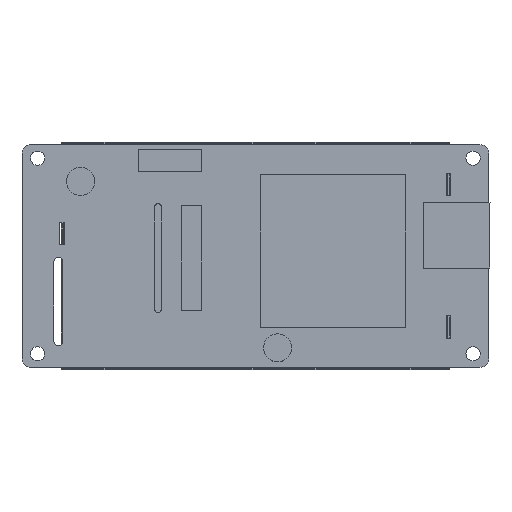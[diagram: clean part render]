
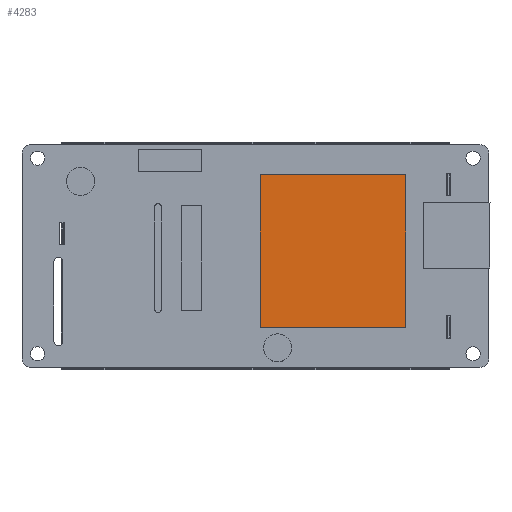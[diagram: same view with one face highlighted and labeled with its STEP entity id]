
A CAD part, top view. The second image highlights one B-rep face of the part: STEP entity #4283.
In plain terms, the highlighted planar face has unit normal (0, 0, 1).
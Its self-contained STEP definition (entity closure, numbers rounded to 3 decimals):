
#929=DIRECTION('',(0.,-1.,0.));
#930=VECTOR('',#929,34.417);
#931=CARTESIAN_POINT('',(-1.868,18.293,10.5));
#932=LINE('',#931,#930);
#933=DIRECTION('',(-1.,0.,0.));
#934=VECTOR('',#933,32.766);
#935=CARTESIAN_POINT('',(30.898,18.293,10.5));
#936=LINE('',#935,#934);
#937=DIRECTION('',(0.,1.,0.));
#938=VECTOR('',#937,34.417);
#939=CARTESIAN_POINT('',(30.898,-16.124,10.5));
#940=LINE('',#939,#938);
#941=DIRECTION('',(1.,0.,0.));
#942=VECTOR('',#941,32.766);
#943=CARTESIAN_POINT('',(-1.868,-16.124,10.5));
#944=LINE('',#943,#942);
#2353=CARTESIAN_POINT('',(-1.868,18.293,10.5));
#2354=CARTESIAN_POINT('',(-1.868,-16.124,10.5));
#2355=VERTEX_POINT('',#2353);
#2356=VERTEX_POINT('',#2354);
#2357=CARTESIAN_POINT('',(30.898,-16.124,10.5));
#2358=VERTEX_POINT('',#2357);
#2359=CARTESIAN_POINT('',(30.898,18.293,10.5));
#2360=VERTEX_POINT('',#2359);
#4272=CARTESIAN_POINT('',(-53.45,-25.08,10.5));
#4273=DIRECTION('',(0.,0.,1.));
#4274=DIRECTION('',(1.,0.,0.));
#4275=AXIS2_PLACEMENT_3D('',#4272,#4273,#4274);
#4276=PLANE('',#4275);
#4277=ORIENTED_EDGE('',*,*,#4196,.F.);
#4278=ORIENTED_EDGE('',*,*,#4218,.F.);
#4279=ORIENTED_EDGE('',*,*,#4239,.F.);
#4280=ORIENTED_EDGE('',*,*,#4259,.F.);
#4281=EDGE_LOOP('',(#4277,#4278,#4279,#4280));
#4282=FACE_OUTER_BOUND('',#4281,.F.);
#4196=EDGE_CURVE('',#2355,#2356,#932,.T.);
#4218=EDGE_CURVE('',#2360,#2355,#936,.T.);
#4239=EDGE_CURVE('',#2358,#2360,#940,.T.);
#4259=EDGE_CURVE('',#2356,#2358,#944,.T.);
#4283=ADVANCED_FACE('',(#4282),#4276,.T.);
